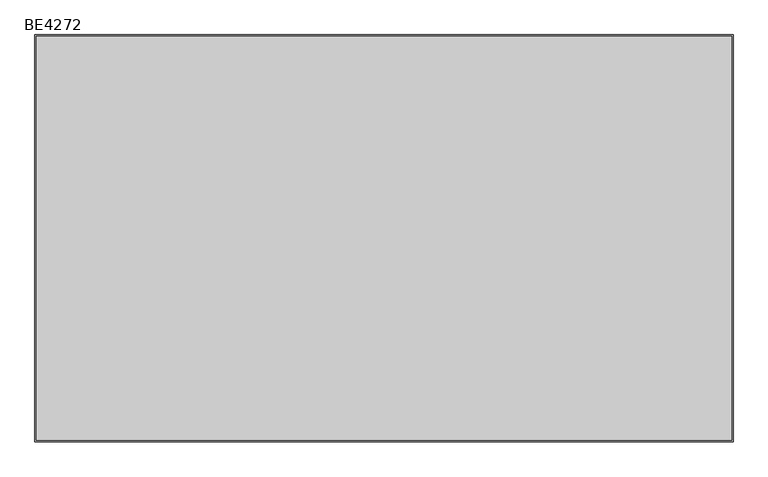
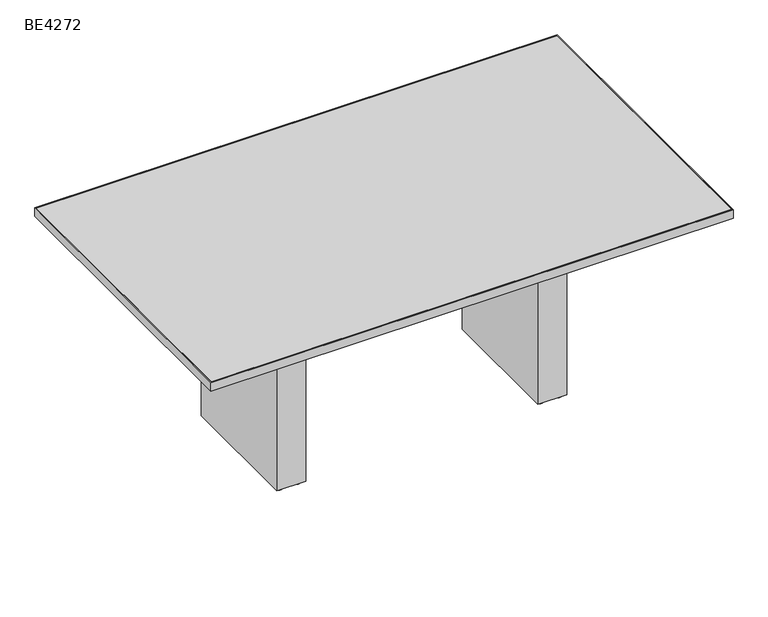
"""IFC4 building model written with IfcOpenShell, lengths in millimetres: furniture geometry, ERG-Beta-Conference_Table-Rectangle : BE4272."""

from ifc_helpers import new_model, si_unit, point, frame, frame_2d, origin, origin_with_axes, place, context, project, spatial, polyline, circle_curve, trimmed, segment, composite_curve, outline, extrude, source, transform, mapped, element, save


def be4272_b93f4ad8(model_context):
    return source(origin(), model_context, "Body", "SweptSolid", [
        extrude(outline(composite_curve([segment(trimmed(circle_curve(frame_2d((968.375, 263.276527)), 9.525), [point((958.85, 263.276527))], [point((977.9, 263.276527))], False, "CARTESIAN"), True, "CONTINUOUS"), segment(trimmed(circle_curve(frame_2d((968.375, 263.276527)), 9.525), [point((977.9, 263.276527))], [point((958.85, 263.276527))], False, "CARTESIAN"), True, "CONTINUOUS")], self_intersect=False)), origin_with_axes(), (0.0, 0.0, 1.0), 9.525),
        extrude(outline(composite_curve([segment(trimmed(circle_curve(frame_2d((1031.875, 263.276527)), 9.525), [point((1022.35, 263.276527))], [point((1041.4, 263.276527))], False, "CARTESIAN"), True, "CONTINUOUS"), segment(trimmed(circle_curve(frame_2d((1031.875, 263.276527)), 9.525), [point((1041.4, 263.276527))], [point((1022.35, 263.276527))], False, "CARTESIAN"), True, "CONTINUOUS")], self_intersect=False)), origin_with_axes(), (0.0, 0.0, 1.0), 9.525),
        extrude(outline(composite_curve([segment(trimmed(circle_curve(frame_2d((968.375, -155.823473)), 9.525), [point((958.85, -155.823473))], [point((977.9, -155.823473))], False, "CARTESIAN"), True, "CONTINUOUS"), segment(trimmed(circle_curve(frame_2d((968.375, -155.823473)), 9.525), [point((977.9, -155.823473))], [point((958.85, -155.823473))], False, "CARTESIAN"), True, "CONTINUOUS")], self_intersect=False)), origin_with_axes(), (0.0, 0.0, 1.0), 9.525),
        extrude(outline(composite_curve([segment(trimmed(circle_curve(frame_2d((1031.875, -155.823473)), 9.525), [point((1022.35, -155.823473))], [point((1041.4, -155.823473))], False, "CARTESIAN"), True, "CONTINUOUS"), segment(trimmed(circle_curve(frame_2d((1031.875, -155.823473)), 9.525), [point((1041.4, -155.823473))], [point((1022.35, -155.823473))], False, "CARTESIAN"), True, "CONTINUOUS")], self_intersect=False)), origin_with_axes(), (0.0, 0.0, 1.0), 9.525),
        extrude(outline(polyline([(1050.925, 282.326527), (1050.925, -174.873473), (949.325, -174.873473), (949.325, 282.326527), (1050.925, 282.326527)])), frame((0.0, 0.0, 9.525), z_axis=(0.0, 0.0, 1.0), x_axis=(1.0, 0.0, 0.0)), (0.0, 0.0, 1.0), 695.3249758),
        extrude(outline(composite_curve([segment(trimmed(circle_curve(frame_2d((53.975, 263.276527)), 9.525), [point((44.45, 263.276527))], [point((63.5, 263.276527))], False, "CARTESIAN"), True, "CONTINUOUS"), segment(trimmed(circle_curve(frame_2d((53.975, 263.276527)), 9.525), [point((63.5, 263.276527))], [point((44.45, 263.276527))], False, "CARTESIAN"), True, "CONTINUOUS")], self_intersect=False)), origin_with_axes(), (0.0, 0.0, 1.0), 9.525),
        extrude(outline(composite_curve([segment(trimmed(circle_curve(frame_2d((117.475, 263.276527)), 9.525), [point((107.95, 263.276527))], [point((127.0, 263.276527))], False, "CARTESIAN"), True, "CONTINUOUS"), segment(trimmed(circle_curve(frame_2d((117.475, 263.276527)), 9.525), [point((127.0, 263.276527))], [point((107.95, 263.276527))], False, "CARTESIAN"), True, "CONTINUOUS")], self_intersect=False)), origin_with_axes(), (0.0, 0.0, 1.0), 9.525),
        extrude(outline(composite_curve([segment(trimmed(circle_curve(frame_2d((53.975, -155.823473)), 9.525), [point((44.45, -155.823473))], [point((63.5, -155.823473))], False, "CARTESIAN"), True, "CONTINUOUS"), segment(trimmed(circle_curve(frame_2d((53.975, -155.823473)), 9.525), [point((63.5, -155.823473))], [point((44.45, -155.823473))], False, "CARTESIAN"), True, "CONTINUOUS")], self_intersect=False)), origin_with_axes(), (0.0, 0.0, 1.0), 9.525),
        extrude(outline(composite_curve([segment(trimmed(circle_curve(frame_2d((117.475, -155.823473)), 9.525), [point((107.95, -155.823473))], [point((127.0, -155.823473))], False, "CARTESIAN"), True, "CONTINUOUS"), segment(trimmed(circle_curve(frame_2d((117.475, -155.823473)), 9.525), [point((127.0, -155.823473))], [point((107.95, -155.823473))], False, "CARTESIAN"), True, "CONTINUOUS")], self_intersect=False)), origin_with_axes(), (0.0, 0.0, 1.0), 9.525),
        extrude(outline(polyline([(136.525, 282.326527), (136.525, -174.873473), (34.925, -174.873473), (34.925, 282.326527), (136.525, 282.326527)])), frame((0.0, 0.0, 9.525), z_axis=(0.0, 0.0, 1.0), x_axis=(1.0, 0.0, 0.0)), (0.0, 0.0, 1.0), 695.3249758),
        extrude(outline(polyline([(1457.325, -479.673473), (-371.475, -479.673473), (-371.475, 587.126527), (1457.325, 587.126527), (1457.325, -479.673473)]), holes=[polyline([(1454.15, 583.951527), (-368.3, 583.951527), (-368.3, -476.498473), (1454.15, -476.498473), (1454.15, 583.951527)])]), frame((0.0, 0.0, 704.85), z_axis=(0.0, 0.0, 1.0), x_axis=(1.0, 0.0, 0.0)), (0.0, 0.0, 1.0), 31.75),
        extrude(outline(polyline([(1454.15, -476.498473), (-368.3, -476.498473), (-368.3, 583.951527), (1454.15, 583.951527), (1454.15, -476.498473)])), frame((0.0, 0.0, 704.85), z_axis=(0.0, 0.0, 1.0), x_axis=(1.0, 0.0, 0.0)), (0.0, 0.0, 1.0), 31.75),
    ])


if __name__ == "__main__":
    model = new_model("IFC4")
    model_context = context("Model", 3, world=origin())
    ifc_project = project(units=[si_unit("LENGTHUNIT", "METRE", prefix="MILLI")], contexts=[model_context])
    site = spatial("IfcSite", under=ifc_project)
    building = spatial("IfcBuilding", under=site)
    placement = place(None, origin())
    be4272_shape = be4272_b93f4ad8(model_context)
    element("IfcFurniture", 1, ObjectType="ERG-Beta-Conference_Table-Rectangle : BE4272", at=placement, inside=building, context=model_context, shape_type="MappedRepresentation", body=[
        mapped(be4272_shape, transform((0.0, 0.0, 0.0), x_axis=(1.0, 0.0, 0.0), y_axis=(0.0, 1.0, 0.0), z_axis=(0.0, 0.0, 1.0))),
    ])
    save(model, "model.ifc")
